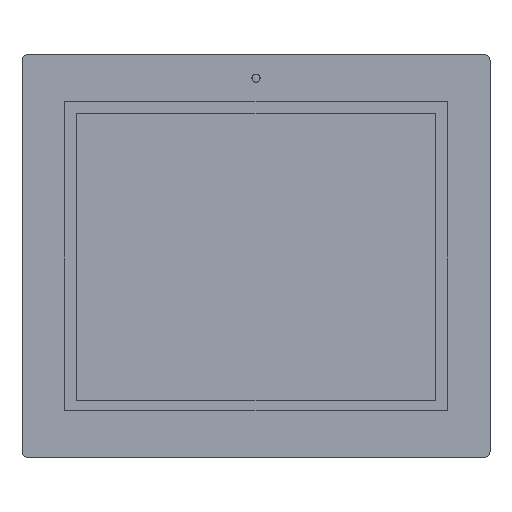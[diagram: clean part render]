
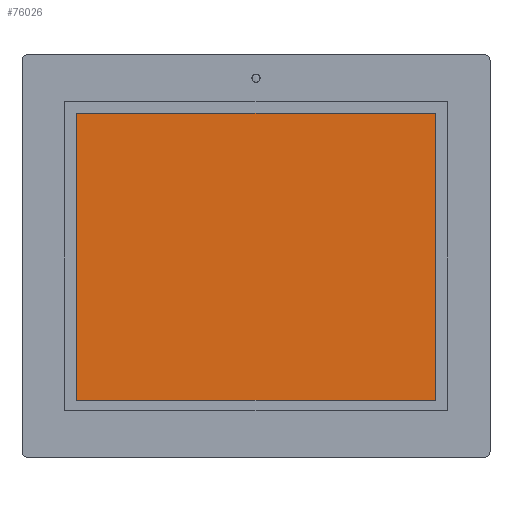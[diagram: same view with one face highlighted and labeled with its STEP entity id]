
A CAD part, top view. The second image highlights one B-rep face of the part: STEP entity #76026.
In plain terms, the highlighted planar face has unit normal (0, 0, 1).
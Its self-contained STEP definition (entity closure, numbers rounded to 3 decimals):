
#2455 = VECTOR ( 'NONE', #129337, 1000. ) ;
#6593 = DIRECTION ( 'NONE',  ( -1., 0., 0. ) ) ;
#8751 = FACE_OUTER_BOUND ( 'NONE', #27074, .T. ) ;
#11762 = CARTESIAN_POINT ( 'NONE',  ( 0., -136.418, 18.2 ) ) ;
#18330 = ORIENTED_EDGE ( 'NONE', *, *, #36143, .T. ) ;
#24246 = LINE ( 'NONE', #11762, #27420 ) ;
#26388 = CARTESIAN_POINT ( 'NONE',  ( 169.46, -136.418, 18.2 ) ) ;
#27074 = EDGE_LOOP ( 'NONE', ( #140394, #85632, #18330, #48528 ) ) ;
#27420 = VECTOR ( 'NONE', #58185, 1000. ) ;
#29516 = CARTESIAN_POINT ( 'NONE',  ( -169.46, -136.418, 18.2 ) ) ;
#36143 = EDGE_CURVE ( 'NONE', #85711, #88828, #107691, .T. ) ;
#44387 = EDGE_CURVE ( 'NONE', #76215, #85711, #82036, .T. ) ;
#48528 = ORIENTED_EDGE ( 'NONE', *, *, #52103, .T. ) ;
#52103 = EDGE_CURVE ( 'NONE', #88828, #53915, #93908, .T. ) ;
#53915 = VERTEX_POINT ( 'NONE', #29516 ) ;
#54462 = VECTOR ( 'NONE', #6593, 1000. ) ;
#58185 = DIRECTION ( 'NONE',  ( 1., 0., 0. ) ) ;
#65552 = DIRECTION ( 'NONE',  ( 0., 0., -1. ) ) ;
#69719 = AXIS2_PLACEMENT_3D ( 'NONE', #99508, #65552, #118758 ) ;
#70343 = CARTESIAN_POINT ( 'NONE',  ( -169.46, 134.922, 18.2 ) ) ;
#75924 = PLANE ( 'NONE',  #69719 ) ;
#76026 = ADVANCED_FACE ( 'NONE', ( #8751 ), #75924, .F. ) ;
#76215 = VERTEX_POINT ( 'NONE', #26388 ) ;
#82036 = LINE ( 'NONE', #127071, #105075 ) ;
#85632 = ORIENTED_EDGE ( 'NONE', *, *, #44387, .T. ) ;
#85711 = VERTEX_POINT ( 'NONE', #136314 ) ;
#88828 = VERTEX_POINT ( 'NONE', #70343 ) ;
#93908 = LINE ( 'NONE', #127888, #2455 ) ;
#97981 = EDGE_CURVE ( 'NONE', #53915, #76215, #24246, .T. ) ;
#99508 = CARTESIAN_POINT ( 'NONE',  ( 0., -0.748, 18.2 ) ) ;
#105075 = VECTOR ( 'NONE', #140323, 1000. ) ;
#107691 = LINE ( 'NONE', #118054, #54462 ) ;
#118054 = CARTESIAN_POINT ( 'NONE',  ( 0., 134.922, 18.2 ) ) ;
#118758 = DIRECTION ( 'NONE',  ( 0., -1., 0. ) ) ;
#127071 = CARTESIAN_POINT ( 'NONE',  ( 169.46, -0.748, 18.2 ) ) ;
#127888 = CARTESIAN_POINT ( 'NONE',  ( -169.46, -0.748, 18.2 ) ) ;
#129337 = DIRECTION ( 'NONE',  ( 0., -1., 0. ) ) ;
#136314 = CARTESIAN_POINT ( 'NONE',  ( 169.46, 134.922, 18.2 ) ) ;
#140323 = DIRECTION ( 'NONE',  ( 0., 1., 0. ) ) ;
#140394 = ORIENTED_EDGE ( 'NONE', *, *, #97981, .T. ) ;
